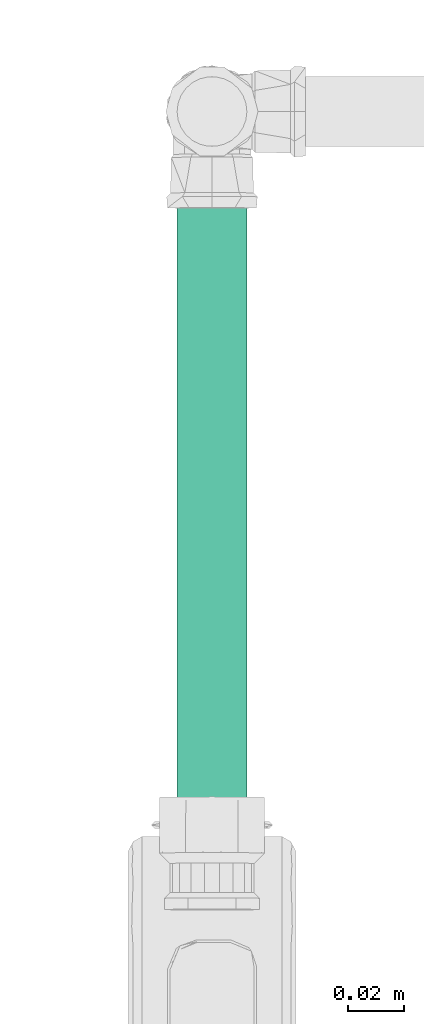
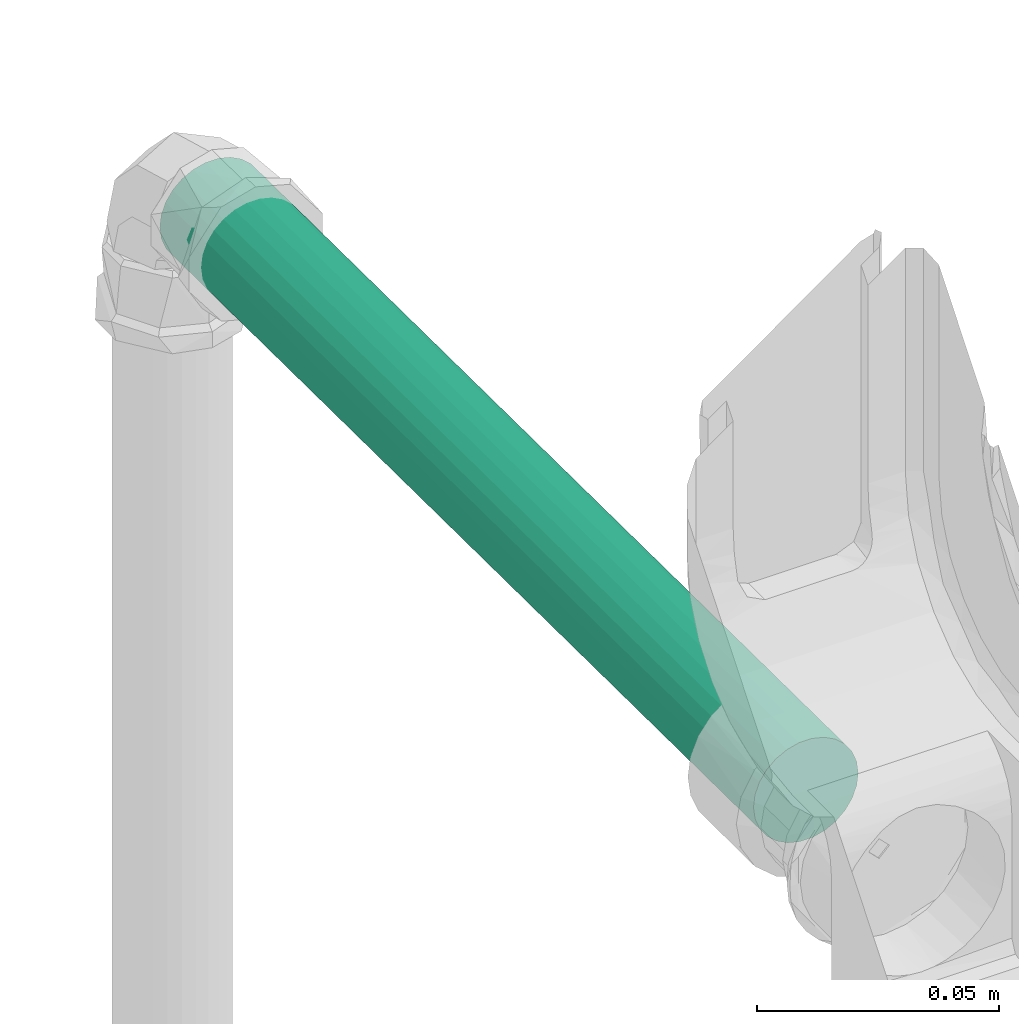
# One storey, part 233 of 589: 1 flow segment.
"""IFC2X3 building model written with IfcOpenShell, lengths in millimetres."""

from ifc_helpers import new_model, entity, si_unit, converted_unit, derived_unit, direction, frame, origin, origin_2d_with_axis, place, context, subcontext, project, spatial, circle, extrude, type_object, element, save


model = new_model("IFC2X3")

# Units and contexts
model_context = context("Model", 3, precision=0.01, world=origin(), true_north=direction((6.123031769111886e-17, 1.0)))
body_context = subcontext(model_context, "Body", "Model", "MODEL_VIEW")
ifc_project = project(units=[si_unit("LENGTHUNIT", "METRE", prefix="MILLI"), si_unit("AREAUNIT", "SQUARE_METRE"), si_unit("VOLUMEUNIT", "CUBIC_METRE"), converted_unit("PLANEANGLEUNIT", "DEGREE", entity("IfcRatioMeasure", 0.017453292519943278), si_unit("PLANEANGLEUNIT", "RADIAN"), dimensions=[0, 0, 0, 0, 0, 0, 0]), si_unit("MASSUNIT", "GRAM", prefix="KILO"), derived_unit("MASSDENSITYUNIT", [(si_unit("MASSUNIT", "GRAM", prefix="KILO"), 1), (si_unit("LENGTHUNIT", "METRE"), -3)]), derived_unit("IONCONCENTRATIONUNIT", [(si_unit("MASSUNIT", "GRAM", prefix="KILO"), 1), (si_unit("LENGTHUNIT", "METRE"), -3)]), derived_unit("MOMENTOFINERTIAUNIT", [(si_unit("LENGTHUNIT", "METRE"), 4)]), si_unit("TIMEUNIT", "SECOND"), si_unit("FREQUENCYUNIT", "HERTZ"), si_unit("THERMODYNAMICTEMPERATUREUNIT", "DEGREE_CELSIUS"), derived_unit("THERMALTRANSMITTANCEUNIT", [(si_unit("MASSUNIT", "GRAM", prefix="KILO"), 1), (si_unit("THERMODYNAMICTEMPERATUREUNIT", "KELVIN"), -1), (si_unit("TIMEUNIT", "SECOND"), -3)]), derived_unit("THERMALCONDUCTANCEUNIT", [(si_unit("MASSUNIT", "GRAM", prefix="KILO"), 1), (si_unit("THERMODYNAMICTEMPERATUREUNIT", "KELVIN"), -1), (si_unit("TIMEUNIT", "SECOND"), -3), (si_unit("LENGTHUNIT", "METRE"), 1)]), derived_unit("VOLUMETRICFLOWRATEUNIT", [(si_unit("LENGTHUNIT", "METRE"), 3), (si_unit("TIMEUNIT", "SECOND"), -1)]), derived_unit("MASSFLOWRATEUNIT", [(si_unit("MASSUNIT", "GRAM", prefix="KILO"), 1), (si_unit("TIMEUNIT", "SECOND"), -1)]), derived_unit("ROTATIONALFREQUENCYUNIT", [(si_unit("TIMEUNIT", "SECOND"), -1)]), si_unit("ELECTRICCURRENTUNIT", "AMPERE"), si_unit("ELECTRICVOLTAGEUNIT", "VOLT"), si_unit("POWERUNIT", "WATT"), si_unit("FORCEUNIT", "NEWTON", prefix="KILO"), si_unit("ILLUMINANCEUNIT", "LUX"), si_unit("LUMINOUSFLUXUNIT", "LUMEN"), si_unit("LUMINOUSINTENSITYUNIT", "CANDELA"), derived_unit("USERDEFINED", [(si_unit("MASSUNIT", "GRAM", prefix="KILO"), -1), (si_unit("LENGTHUNIT", "METRE"), -2), (si_unit("TIMEUNIT", "SECOND"), 3), (si_unit("LUMINOUSFLUXUNIT", "LUMEN"), 1)]), derived_unit("USERDEFINED", [(si_unit("MASSUNIT", "GRAM", prefix="KILO"), 1), (si_unit("TIMEUNIT", "SECOND"), -3), (si_unit("LENGTHUNIT", "METRE"), 3), (si_unit("ELECTRICCURRENTUNIT", "AMPERE"), -2)]), derived_unit("SOUNDPOWERUNIT", [(si_unit("MASSUNIT", "GRAM", prefix="KILO"), 1), (si_unit("TIMEUNIT", "SECOND"), -3), (si_unit("LENGTHUNIT", "METRE"), 2)]), derived_unit("SOUNDPRESSUREUNIT", [(si_unit("MASSUNIT", "GRAM", prefix="KILO"), 1), (si_unit("LENGTHUNIT", "METRE"), -1), (si_unit("TIMEUNIT", "SECOND"), -2)]), derived_unit("LINEARVELOCITYUNIT", [(si_unit("LENGTHUNIT", "METRE"), 1), (si_unit("TIMEUNIT", "SECOND"), -1)]), si_unit("PRESSUREUNIT", "PASCAL"), derived_unit("USERDEFINED", [(si_unit("MASSUNIT", "GRAM", prefix="KILO"), 1), (si_unit("LENGTHUNIT", "METRE"), -2), (si_unit("TIMEUNIT", "SECOND"), -2)]), derived_unit("LINEARFORCEUNIT", [(si_unit("MASSUNIT", "GRAM", prefix="KILO"), 1), (si_unit("TIMEUNIT", "SECOND"), -2)]), derived_unit("PLANARFORCEUNIT", [(si_unit("MASSUNIT", "GRAM", prefix="KILO"), 1), (si_unit("LENGTHUNIT", "METRE"), -1), (si_unit("TIMEUNIT", "SECOND"), -2)]), derived_unit("SPECIFICHEATCAPACITYUNIT", [(si_unit("THERMODYNAMICTEMPERATUREUNIT", "KELVIN"), -1), (si_unit("LENGTHUNIT", "METRE"), 2), (si_unit("TIMEUNIT", "SECOND"), -2)]), derived_unit("HEATINGVALUEUNIT", [(si_unit("LENGTHUNIT", "METRE"), 2), (si_unit("TIMEUNIT", "SECOND"), -2)]), derived_unit("VAPORPERMEABILITYUNIT", [(si_unit("LENGTHUNIT", "METRE"), -1), (si_unit("TIMEUNIT", "SECOND"), 1)]), derived_unit("DYNAMICVISCOSITYUNIT", [(si_unit("MASSUNIT", "GRAM", prefix="KILO"), 1), (si_unit("TIMEUNIT", "SECOND"), -1), (si_unit("LENGTHUNIT", "METRE"), -1)]), derived_unit("THERMALEXPANSIONCOEFFICIENTUNIT", [(si_unit("THERMODYNAMICTEMPERATUREUNIT", "KELVIN"), -1)]), derived_unit("MODULUSOFELASTICITYUNIT", [(si_unit("MASSUNIT", "GRAM", prefix="KILO"), 1), (si_unit("LENGTHUNIT", "METRE"), -1), (si_unit("TIMEUNIT", "SECOND"), -2)]), derived_unit("ISOTHERMALMOISTURECAPACITYUNIT", [(si_unit("LENGTHUNIT", "METRE"), 3), (si_unit("MASSUNIT", "GRAM", prefix="KILO"), -1)]), derived_unit("MOISTUREDIFFUSIVITYUNIT", [(si_unit("TIMEUNIT", "SECOND"), -1), (si_unit("LENGTHUNIT", "METRE"), 2)])], contexts=[model_context])

# Site, building, storey
site_placement = place(None, origin())
site = spatial("IfcSite", under=ifc_project, at=site_placement, Name="Default", CompositionType="ELEMENT")
building_placement = place(site_placement, origin())
building = spatial("IfcBuilding", under=site, at=building_placement, CompositionType="ELEMENT")
storey_placement = place(building_placement, frame((0.0, 0.0, 100.0)))
storey = spatial("IfcBuildingStorey", under=building, at=storey_placement, Name="TÉRREO", CompositionType="ELEMENT", Elevation=100.0)

# Flow segment
pipe_segment_type = type_object("IfcPipeSegmentType", Name="Tipos de tubos:PVC Marrom Soldável", PredefinedType="NOTDEFINED")
flow_segment_placement = place(storey_placement, origin())
element("IfcFlowSegment", 1, at=flow_segment_placement, inside=storey, type_object=pipe_segment_type, Name="Tipos de tubos:PVC Marrom Soldável", ObjectType="Tipos de tubos:PVC Marrom Soldável", context=body_context, shape_type="SweptSolid", body=[
    extrude(circle(Radius=12.5, at=origin_2d_with_axis()), frame((14737.420936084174, 453.90278798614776, 2584.063488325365), z_axis=(0.0, -0.9999500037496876, 0.00999950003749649), x_axis=(1.0, 0.0, 0.0)), (0.0, 0.0, 1.0), 245.33544004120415),
])

save(model, "model.ifc")
